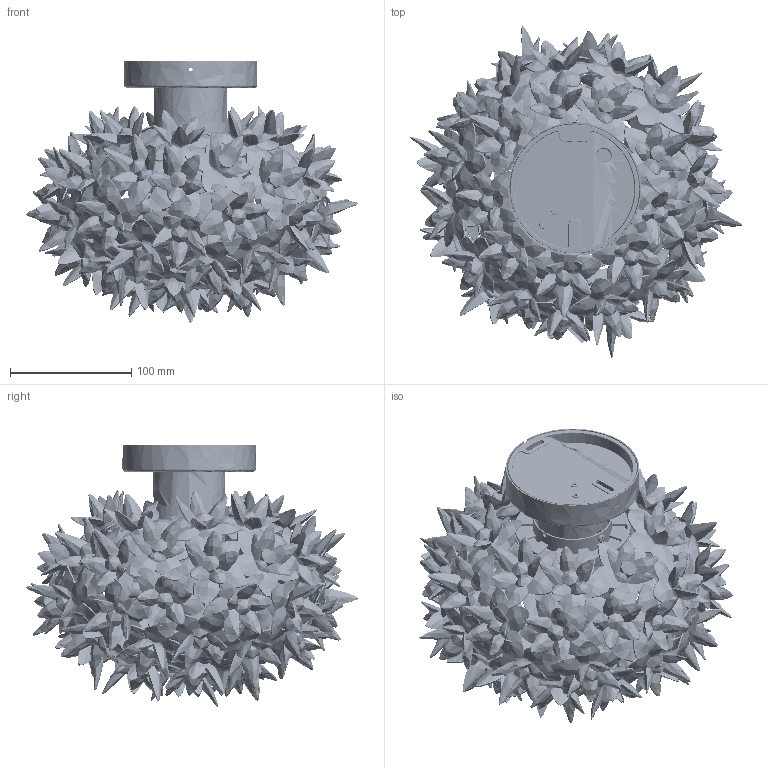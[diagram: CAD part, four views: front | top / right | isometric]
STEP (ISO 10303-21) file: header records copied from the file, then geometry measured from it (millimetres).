
FILE_DESCRIPTION(/* description */ (''),/* implementation_level */ '2;1');
FILE_NAME(/* name */ 'BLOOM_~1',/* time_stamp */ '2019-06-25T10:59:52+02:00',/* author */ (''),/* organization */ (''),/* preprocessor_version */ 'ST-DEVELOPER v15',/* originating_system */ '',/* authorisation */ '');
FILE_SCHEMA (('AUTOMOTIVE_DESIGN'));
Products named in the file (2): Document; (#9369)
Assembly tree (44 placements, depth 2):
  Document
    (#9369)  x44
Bounding box: 273.85 x 273.32 x 216.12 mm (x, y, z)
Volume: 67871.5 mm3; surface area: 592756.4 mm2
Topology: 13 solids, 4021 shells, 56137 faces, 110934 edges, 58471 vertices
Faces by surface type: plane 37258, bspline 18879
Entity records: 677290 total; most frequent: CARTESIAN_POINT 356727, ORIENTED_EDGE 70295, EDGE_CURVE 46856, B_SPLINE_CURVE_WITH_KNOTS 38959, VERTEX_POINT 33226, EDGE_LOOP 17622, ADVANCED_FACE 17437, FACE_OUTER_BOUND 17437
